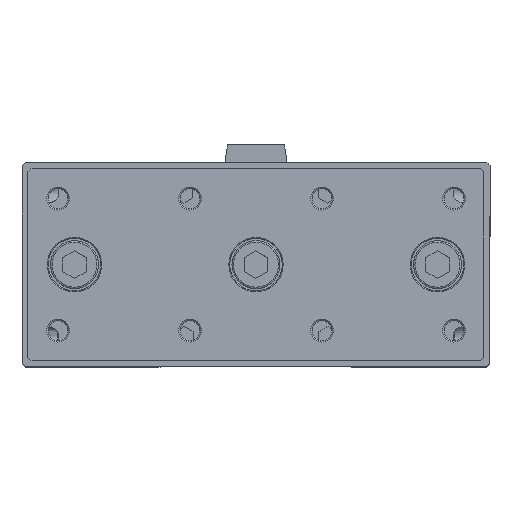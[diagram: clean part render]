
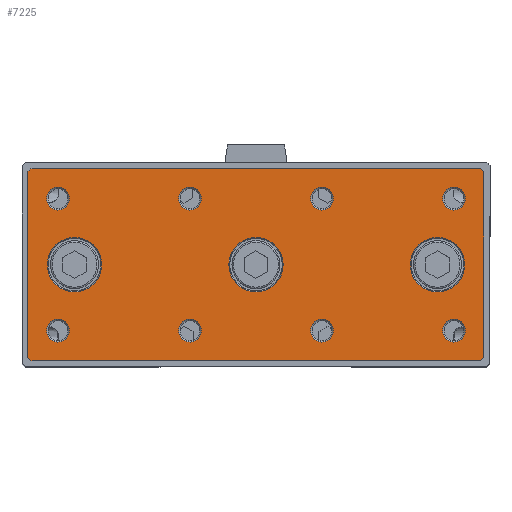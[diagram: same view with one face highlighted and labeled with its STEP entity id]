
A CAD part, top view. The second image highlights one B-rep face of the part: STEP entity #7225.
In plain terms, the highlighted planar face has unit normal (0, 0, 1).
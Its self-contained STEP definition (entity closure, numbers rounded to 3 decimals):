
#6983=CARTESIAN_POINT('',(-82.057,-30.206,101.6));
#6984=VERTEX_POINT('',#6983);
#6985=CARTESIAN_POINT('',(-83.057,-29.206,101.6));
#6986=VERTEX_POINT('',#6985);
#6987=CARTESIAN_POINT('',(-82.057,-30.206,101.6));
#6988=DIRECTION('',(-0.707,0.707,0.0));
#6989=VECTOR('',#6988,1.414);
#6990=LINE('',#6987,#6989);
#6991=EDGE_CURVE('',#6984,#6986,#6990,.T.);
#7024=CARTESIAN_POINT('',(-83.057,32.794,101.6));
#7025=VERTEX_POINT('',#7024);
#7026=CARTESIAN_POINT('',(-83.057,-29.206,101.6));
#7027=DIRECTION('',(0.0,1.0,0.0));
#7028=VECTOR('',#7027,62.);
#7029=LINE('',#7026,#7028);
#7030=EDGE_CURVE('',#6986,#7025,#7029,.T.);
#7049=CARTESIAN_POINT('',(-7.057,1.794,101.6));
#7050=DIRECTION('',(0.0,0.0,1.0));
#7051=DIRECTION('',(1.0,0.0,0.0));
#7052=AXIS2_PLACEMENT_3D('',#7049,#7050,#7051);
#7053=PLANE('',#7052);
#7054=ORIENTED_EDGE('',*,*,#6991,.F.);
#7055=CARTESIAN_POINT('',(67.943,-30.206,101.6));
#7056=VERTEX_POINT('',#7055);
#7057=CARTESIAN_POINT('',(67.943,-30.206,101.6));
#7058=DIRECTION('',(-1.0,0.0,0.0));
#7059=VECTOR('',#7058,150.0);
#7060=LINE('',#7057,#7059);
#7061=EDGE_CURVE('',#7056,#6984,#7060,.T.);
#7062=ORIENTED_EDGE('',*,*,#7061,.F.);
#7063=CARTESIAN_POINT('',(68.943,-29.206,101.6));
#7064=VERTEX_POINT('',#7063);
#7065=CARTESIAN_POINT('',(68.943,-29.206,101.6));
#7066=DIRECTION('',(-0.707,-0.707,0.0));
#7067=VECTOR('',#7066,1.414);
#7068=LINE('',#7065,#7067);
#7069=EDGE_CURVE('',#7064,#7056,#7068,.T.);
#7070=ORIENTED_EDGE('',*,*,#7069,.F.);
#7071=CARTESIAN_POINT('',(68.943,32.794,101.6));
#7072=VERTEX_POINT('',#7071);
#7073=CARTESIAN_POINT('',(68.943,32.794,101.6));
#7074=DIRECTION('',(0.0,-1.0,0.0));
#7075=VECTOR('',#7074,62.);
#7076=LINE('',#7073,#7075);
#7077=EDGE_CURVE('',#7072,#7064,#7076,.T.);
#7078=ORIENTED_EDGE('',*,*,#7077,.F.);
#7079=CARTESIAN_POINT('',(67.943,33.794,101.6));
#7080=VERTEX_POINT('',#7079);
#7081=CARTESIAN_POINT('',(67.943,33.794,101.6));
#7082=DIRECTION('',(0.707,-0.707,0.0));
#7083=VECTOR('',#7082,1.414);
#7084=LINE('',#7081,#7083);
#7085=EDGE_CURVE('',#7080,#7072,#7084,.T.);
#7086=ORIENTED_EDGE('',*,*,#7085,.F.);
#7087=CARTESIAN_POINT('',(-82.057,33.794,101.6));
#7088=VERTEX_POINT('',#7087);
#7089=CARTESIAN_POINT('',(-82.057,33.794,101.6));
#7090=DIRECTION('',(1.0,0.0,0.0));
#7091=VECTOR('',#7090,150.);
#7092=LINE('',#7089,#7091);
#7093=EDGE_CURVE('',#7088,#7080,#7092,.T.);
#7094=ORIENTED_EDGE('',*,*,#7093,.F.);
#7095=CARTESIAN_POINT('',(-83.057,32.794,101.6));
#7096=DIRECTION('',(0.707,0.707,0.0));
#7097=VECTOR('',#7096,1.414);
#7098=LINE('',#7095,#7097);
#7099=EDGE_CURVE('',#7025,#7088,#7098,.T.);
#7100=ORIENTED_EDGE('',*,*,#7099,.F.);
#7101=ORIENTED_EDGE('',*,*,#7030,.F.);
#7102=EDGE_LOOP('',(#7054,#7062,#7070,#7078,#7086,#7094,#7100,#7101));
#7103=FACE_OUTER_BOUND('',#7102,.T.);
#7104=CARTESIAN_POINT('',(-58.507,1.794,101.6));
#7105=VERTEX_POINT('',#7104);
#7106=CARTESIAN_POINT('',(-67.557,1.794,101.6));
#7107=DIRECTION('',(0.0,0.0,1.0));
#7108=DIRECTION('',(-1.0,0.0,0.0));
#7109=AXIS2_PLACEMENT_3D('',#7106,#7107,#7108);
#7110=CIRCLE('',#7109,9.05);
#7111=EDGE_CURVE('',#7105,#7105,#7110,.T.);
#7112=ORIENTED_EDGE('',*,*,#7111,.F.);
#7113=EDGE_LOOP('',(#7112));
#7114=FACE_BOUND('',#7113,.T.);
#7115=CARTESIAN_POINT('',(62.766,-20.206,101.6));
#7116=VERTEX_POINT('',#7115);
#7117=CARTESIAN_POINT('',(58.943,-20.206,101.6));
#7118=DIRECTION('',(0.0,0.0,1.0));
#7119=DIRECTION('',(-1.0,0.0,0.0));
#7120=AXIS2_PLACEMENT_3D('',#7117,#7118,#7119);
#7121=CIRCLE('',#7120,3.823);
#7122=EDGE_CURVE('',#7116,#7116,#7121,.T.);
#7123=ORIENTED_EDGE('',*,*,#7122,.F.);
#7124=EDGE_LOOP('',(#7123));
#7125=FACE_BOUND('',#7124,.T.);
#7126=CARTESIAN_POINT('',(-69.234,-20.206,101.6));
#7127=VERTEX_POINT('',#7126);
#7128=CARTESIAN_POINT('',(-73.057,-20.206,101.6));
#7129=DIRECTION('',(0.0,0.0,1.0));
#7130=DIRECTION('',(-1.0,0.0,0.0));
#7131=AXIS2_PLACEMENT_3D('',#7128,#7129,#7130);
#7132=CIRCLE('',#7131,3.823);
#7133=EDGE_CURVE('',#7127,#7127,#7132,.T.);
#7134=ORIENTED_EDGE('',*,*,#7133,.F.);
#7135=EDGE_LOOP('',(#7134));
#7136=FACE_BOUND('',#7135,.T.);
#7137=CARTESIAN_POINT('',(62.766,23.794,101.6));
#7138=VERTEX_POINT('',#7137);
#7139=CARTESIAN_POINT('',(58.943,23.794,101.6));
#7140=DIRECTION('',(0.0,0.0,1.0));
#7141=DIRECTION('',(-1.0,0.0,0.0));
#7142=AXIS2_PLACEMENT_3D('',#7139,#7140,#7141);
#7143=CIRCLE('',#7142,3.823);
#7144=EDGE_CURVE('',#7138,#7138,#7143,.T.);
#7145=ORIENTED_EDGE('',*,*,#7144,.F.);
#7146=EDGE_LOOP('',(#7145));
#7147=FACE_BOUND('',#7146,.T.);
#7148=CARTESIAN_POINT('',(-69.234,23.794,101.6));
#7149=VERTEX_POINT('',#7148);
#7150=CARTESIAN_POINT('',(-73.057,23.794,101.6));
#7151=DIRECTION('',(0.0,0.0,1.0));
#7152=DIRECTION('',(-1.0,0.0,0.0));
#7153=AXIS2_PLACEMENT_3D('',#7150,#7151,#7152);
#7154=CIRCLE('',#7153,3.823);
#7155=EDGE_CURVE('',#7149,#7149,#7154,.T.);
#7156=ORIENTED_EDGE('',*,*,#7155,.F.);
#7157=EDGE_LOOP('',(#7156));
#7158=FACE_BOUND('',#7157,.T.);
#7159=CARTESIAN_POINT('',(18.766,-20.206,101.6));
#7160=VERTEX_POINT('',#7159);
#7161=CARTESIAN_POINT('',(14.943,-20.206,101.6));
#7162=DIRECTION('',(0.0,0.0,1.0));
#7163=DIRECTION('',(-1.0,0.0,0.0));
#7164=AXIS2_PLACEMENT_3D('',#7161,#7162,#7163);
#7165=CIRCLE('',#7164,3.824);
#7166=EDGE_CURVE('',#7160,#7160,#7165,.T.);
#7167=ORIENTED_EDGE('',*,*,#7166,.F.);
#7168=EDGE_LOOP('',(#7167));
#7169=FACE_BOUND('',#7168,.T.);
#7170=CARTESIAN_POINT('',(-25.234,-20.206,101.6));
#7171=VERTEX_POINT('',#7170);
#7172=CARTESIAN_POINT('',(-29.057,-20.206,101.6));
#7173=DIRECTION('',(0.0,0.0,1.0));
#7174=DIRECTION('',(-1.0,0.0,0.0));
#7175=AXIS2_PLACEMENT_3D('',#7172,#7173,#7174);
#7176=CIRCLE('',#7175,3.823);
#7177=EDGE_CURVE('',#7171,#7171,#7176,.T.);
#7178=ORIENTED_EDGE('',*,*,#7177,.F.);
#7179=EDGE_LOOP('',(#7178));
#7180=FACE_BOUND('',#7179,.T.);
#7181=CARTESIAN_POINT('',(18.766,23.794,101.6));
#7182=VERTEX_POINT('',#7181);
#7183=CARTESIAN_POINT('',(14.943,23.794,101.6));
#7184=DIRECTION('',(0.0,0.0,1.0));
#7185=DIRECTION('',(-1.0,0.0,0.0));
#7186=AXIS2_PLACEMENT_3D('',#7183,#7184,#7185);
#7187=CIRCLE('',#7186,3.824);
#7188=EDGE_CURVE('',#7182,#7182,#7187,.T.);
#7189=ORIENTED_EDGE('',*,*,#7188,.F.);
#7190=EDGE_LOOP('',(#7189));
#7191=FACE_BOUND('',#7190,.T.);
#7192=CARTESIAN_POINT('',(-25.234,23.794,101.6));
#7193=VERTEX_POINT('',#7192);
#7194=CARTESIAN_POINT('',(-29.057,23.794,101.6));
#7195=DIRECTION('',(0.0,0.0,1.0));
#7196=DIRECTION('',(-1.0,0.0,0.0));
#7197=AXIS2_PLACEMENT_3D('',#7194,#7195,#7196);
#7198=CIRCLE('',#7197,3.823);
#7199=EDGE_CURVE('',#7193,#7193,#7198,.T.);
#7200=ORIENTED_EDGE('',*,*,#7199,.F.);
#7201=EDGE_LOOP('',(#7200));
#7202=FACE_BOUND('',#7201,.T.);
#7203=CARTESIAN_POINT('',(62.493,1.794,101.6));
#7204=VERTEX_POINT('',#7203);
#7205=CARTESIAN_POINT('',(53.443,1.794,101.6));
#7206=DIRECTION('',(0.0,0.0,1.0));
#7207=DIRECTION('',(-1.0,0.0,0.0));
#7208=AXIS2_PLACEMENT_3D('',#7205,#7206,#7207);
#7209=CIRCLE('',#7208,9.05);
#7210=EDGE_CURVE('',#7204,#7204,#7209,.T.);
#7211=ORIENTED_EDGE('',*,*,#7210,.F.);
#7212=EDGE_LOOP('',(#7211));
#7213=FACE_BOUND('',#7212,.T.);
#7214=CARTESIAN_POINT('',(1.993,1.794,101.6));
#7215=VERTEX_POINT('',#7214);
#7216=CARTESIAN_POINT('',(-7.057,1.794,101.6));
#7217=DIRECTION('',(0.0,0.0,1.0));
#7218=DIRECTION('',(-1.0,0.0,0.0));
#7219=AXIS2_PLACEMENT_3D('',#7216,#7217,#7218);
#7220=CIRCLE('',#7219,9.05);
#7221=EDGE_CURVE('',#7215,#7215,#7220,.T.);
#7222=ORIENTED_EDGE('',*,*,#7221,.F.);
#7223=EDGE_LOOP('',(#7222));
#7224=FACE_BOUND('',#7223,.T.);
#7225=ADVANCED_FACE('',(#7103,#7114,#7125,#7136,#7147,#7158,#7169,#7180,#7191,#7202,#7213,#7224),#7053,.T.);
